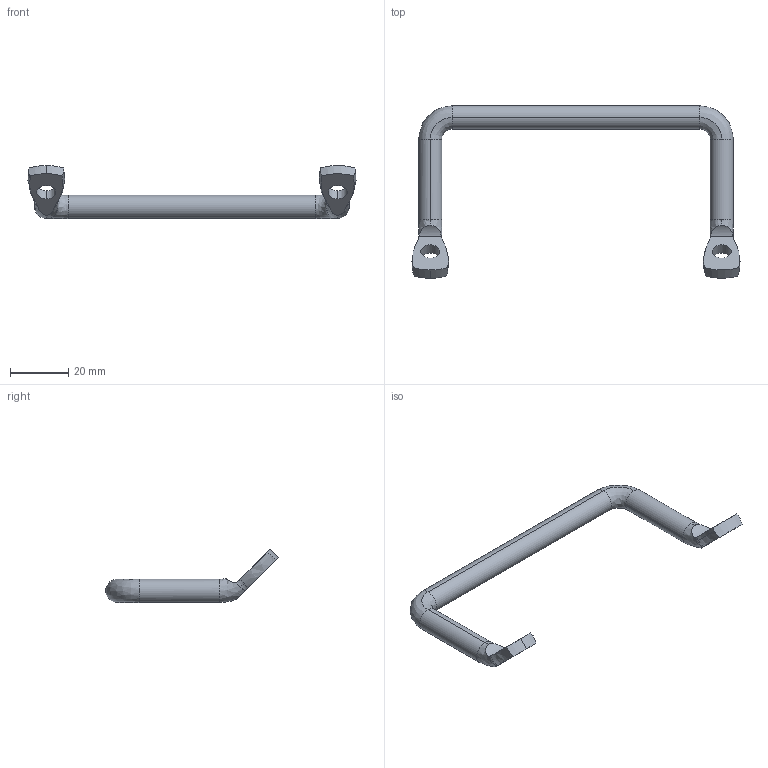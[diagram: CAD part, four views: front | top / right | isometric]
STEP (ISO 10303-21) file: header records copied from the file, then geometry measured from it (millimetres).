
FILE_DESCRIPTION (( 'STEP AP203' ), '1' );
FILE_NAME ('ls531.STEP', '2020-02-14T07:47:41', ( '' ), ( '' ), 'SwSTEP 2.0', 'SolidWorks 2018', '' );
FILE_SCHEMA (( 'CONFIG_CONTROL_DESIGN' ));
Length unit declared in the file: millimetre
Products named in the file (1): ls531
Bounding box: 112.56 x 59.21 x 18.2 mm (x, y, z)
Volume: 9996.9 mm3; surface area: 5524.9 mm2
Topology: 1 solids, 1 shells, 41 faces, 109 edges, 70 vertices
Faces by surface type: bspline 22, cylinder 15, plane 4
Entity records: 2049 total; most frequent: CARTESIAN_POINT 1127, ORIENTED_EDGE 218, DIRECTION 125, EDGE_CURVE 109, VERTEX_POINT 70, AXIS2_PLACEMENT_3D 56, B_SPLINE_CURVE_WITH_KNOTS 51, EDGE_LOOP 45
